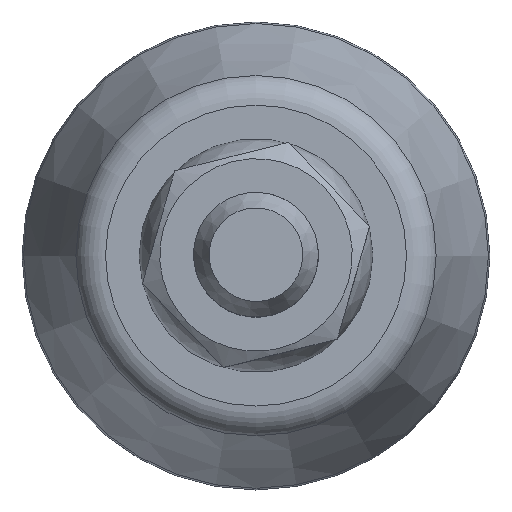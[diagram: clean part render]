
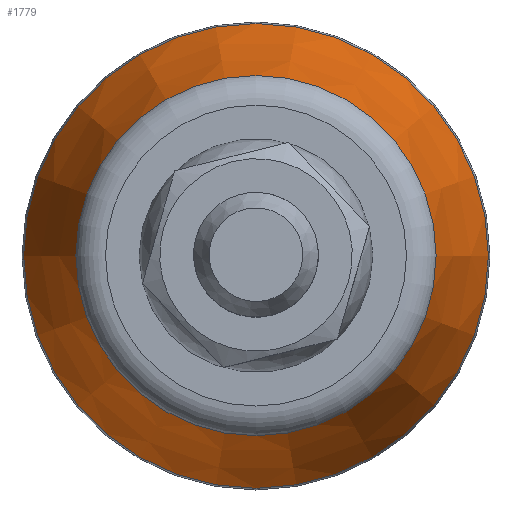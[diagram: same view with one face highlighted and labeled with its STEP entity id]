
A CAD part, top view. The second image highlights one B-rep face of the part: STEP entity #1779.
In plain terms, the highlighted conical face has half-angle 18 degrees and reference radius 13.226 mm.
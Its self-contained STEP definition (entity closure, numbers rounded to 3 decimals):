
#1779=ADVANCED_FACE('',(#3409,#3411),#3413,.T.);
#3409=FACE_BOUND('',#3410,.T.);
#3410=EDGE_LOOP('',(#4616,#4617));
#3411=FACE_BOUND('',#3412,.T.);
#3412=EDGE_LOOP('',(#4618,#4619));
#3413=CONICAL_SURFACE('',#3414,13.226,0.314);
#3414=AXIS2_PLACEMENT_3D('',#3415,#3416,#3417);
#3415=CARTESIAN_POINT('',(0.,0.,11.46));
#3416=DIRECTION('',(0.,0.,-1.));
#3417=DIRECTION('',(1.,0.,0.));
#4616=ORIENTED_EDGE('',*,*,#5244,.T.);
#4617=ORIENTED_EDGE('',*,*,#5243,.T.);
#4618=ORIENTED_EDGE('',*,*,#5247,.F.);
#4619=ORIENTED_EDGE('',*,*,#5248,.F.);
#5243=EDGE_CURVE('',#6109,#6110,#6111,.T.);
#5244=EDGE_CURVE('',#6110,#6109,#6112,.T.);
#5247=EDGE_CURVE('',#6117,#6118,#6119,.T.);
#5248=EDGE_CURVE('',#6118,#6117,#6120,.T.);
#6109=VERTEX_POINT('',#11518);
#6110=VERTEX_POINT('',#11519);
#6111=CIRCLE('',#11520,14.902);
#6112=CIRCLE('',#11524,14.902);
#6117=VERTEX_POINT('',#11538);
#6118=VERTEX_POINT('',#11539);
#6119=CIRCLE('',#11540,11.55);
#6120=CIRCLE('',#11544,11.55);
#11518=CARTESIAN_POINT('',(-14.902,0.,6.301));
#11519=CARTESIAN_POINT('',(14.902,0.,6.301));
#11520=AXIS2_PLACEMENT_3D('',#11521,#11522,#11523);
#11521=CARTESIAN_POINT('',(0.,0.,6.301));
#11522=DIRECTION('',(0.,0.,1.));
#11523=DIRECTION('',(-1.,0.,0.));
#11524=AXIS2_PLACEMENT_3D('',#11525,#11526,#11527);
#11525=CARTESIAN_POINT('',(0.,0.,6.301));
#11526=DIRECTION('',(0.,0.,1.));
#11527=DIRECTION('',(1.,0.,0.));
#11538=CARTESIAN_POINT('',(-11.55,0.,16.618));
#11539=CARTESIAN_POINT('',(11.55,0.,16.618));
#11540=AXIS2_PLACEMENT_3D('',#11541,#11542,#11543);
#11541=CARTESIAN_POINT('',(0.,0.,16.618));
#11542=DIRECTION('',(0.,0.,1.));
#11543=DIRECTION('',(-1.,0.,0.));
#11544=AXIS2_PLACEMENT_3D('',#11545,#11546,#11547);
#11545=CARTESIAN_POINT('',(0.,0.,16.618));
#11546=DIRECTION('',(0.,0.,1.));
#11547=DIRECTION('',(1.,0.,0.));
